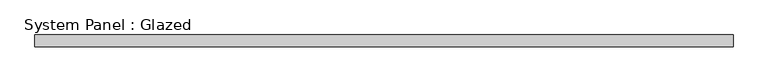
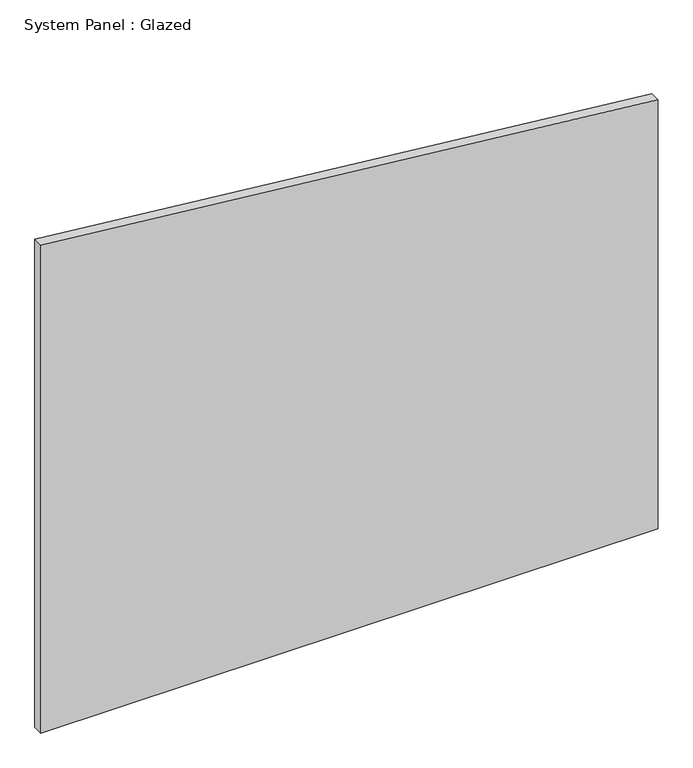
"""IFC4 building model written with IfcOpenShell, lengths in millimetres: plate geometry, System Panel : Glazed."""

from ifc_helpers import new_model, si_unit, frame, origin, place, context, project, spatial, polyline, outline, extrude, source, transform, mapped, element, save


def system_panel_glazed_ca16f14c(model_context):
    return source(origin(), model_context, "Body", "SweptSolid", [
        extrude(outline(polyline([(0.0, -735.8695652), (0.0, 735.8695652), (1081.4500009, 735.8695652), (1229.4329796, -735.8695652), (0.0, -735.8695652)])), frame((0.0, 24.5, 0.0), z_axis=(0.0, 1.0, 0.0), x_axis=(0.0, 0.0, 1.0)), (0.0, 0.0, 1.0), 25.0),
    ])


if __name__ == "__main__":
    model = new_model("IFC4")
    model_context = context("Model", 3, world=origin())
    ifc_project = project(units=[si_unit("LENGTHUNIT", "METRE", prefix="MILLI")], contexts=[model_context])
    site = spatial("IfcSite", under=ifc_project)
    building = spatial("IfcBuilding", under=site)
    placement = place(None, origin())
    system_panel_glazed_shape = system_panel_glazed_ca16f14c(model_context)
    element("IfcPlate", 1, ObjectType="System Panel : Glazed", at=placement, inside=building, context=model_context, shape_type="MappedRepresentation", body=[
        mapped(system_panel_glazed_shape, transform((0.0, 0.0, 0.0), x_axis=(1.0, 0.0, 0.0), y_axis=(0.0, 1.0, 0.0), z_axis=(0.0, 0.0, 1.0))),
    ])
    save(model, "model.ifc")
